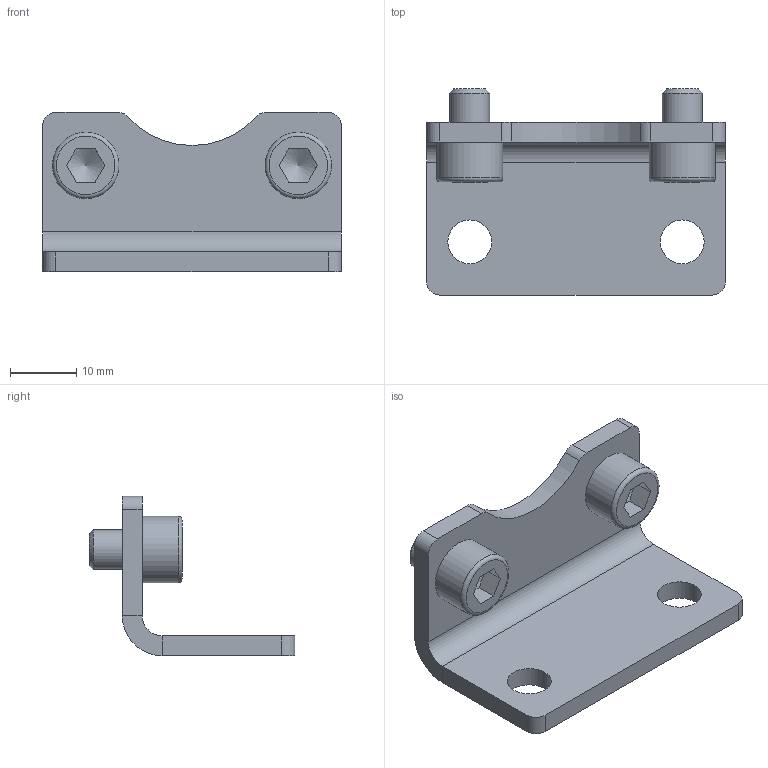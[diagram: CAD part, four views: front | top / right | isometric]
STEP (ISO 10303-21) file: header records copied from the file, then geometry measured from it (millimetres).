
FILE_DESCRIPTION(/* description */ (''),/* implementation_level */ '2;1');
FILE_NAME(/* name */ 'C:\Users\probic.HYPEX\Desktop\3d feldin\izvoz\CAD_108255_B.stp',/* time_stamp */ '2021-01-19T10:17:30+01:00',/* author */ ('Hypex'),/* organization */ ('Hypex'),/* preprocessor_version */ 'ST-DEVELOPER v18',/* originating_system */ 'Autodesk Inventor 2020',/* authorisation */ '');
FILE_SCHEMA (('AUTOMOTIVE_DESIGN { 1 0 10303 214 3 1 1 }'));
Length unit declared in the file: millimetre
Products named in the file (1): CAD_108255_B
Bounding box: 45 x 31 x 24 mm (x, y, z)
Volume: 6674.2 mm3; surface area: 5315.9 mm2
Topology: 1 solids, 1 shells, 56 faces, 150 edges, 102 vertices
Faces by surface type: plane 31, cylinder 17, torus 4, cone 4
Full cylindrical faces by diameter (mm): 6 x2, 6.6 x4, 10 x2
Entity records: 1885 total; most frequent: CARTESIAN_POINT 335, DIRECTION 312, ORIENTED_EDGE 296, EDGE_CURVE 148, AXIS2_PLACEMENT_3D 121, VERTEX_POINT 102, LINE 70, VECTOR 70
